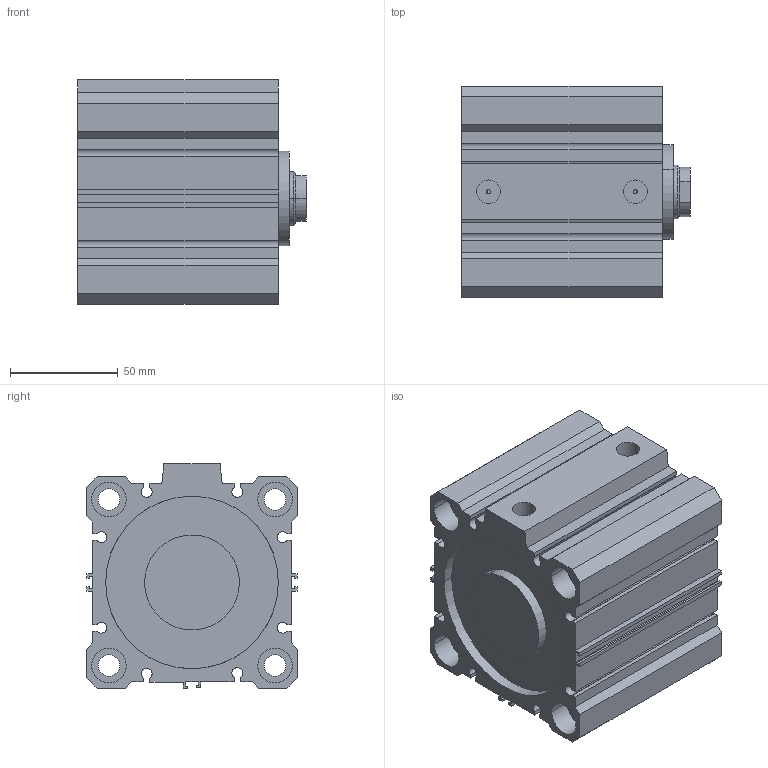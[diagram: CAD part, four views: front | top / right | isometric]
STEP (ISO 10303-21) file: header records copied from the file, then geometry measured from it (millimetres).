
FILE_DESCRIPTION(('CATIA V5 STEP Exchange'),'2;1');
FILE_NAME('D:\PDA\PDA-STP\PDA 80-25\PDA 80-25-40.stp','2016-02-02T11:03:57+00:00',('none'),('none'),'Version 5-6 Release 2012','CATIA V5 STEP AP203','none');
FILE_SCHEMA(('CONFIG_CONTROL_DESIGN'));
Length unit declared in the file: millimetre
Products named in the file (1): PDA 80-25-40-00
Assembly tree (2 placements, depth 2):
  PDA 80-25-40-00
    #58
    #4698
Bounding box: 106 x 98 x 104 mm (x, y, z)
Volume: 529857 mm3; surface area: 135096.6 mm2
Topology: 2 solids, 2 shells, 180 faces, 476 edges, 316 vertices
Faces by surface type: plane 114, cylinder 64, cone 2
Entity records: 5167 total; most frequent: ORIENTED_EDGE 952, CARTESIAN_POINT 930, DIRECTION 672, EDGE_CURVE 476, VECTOR 334, LINE 334, VERTEX_POINT 316, AXIS2_PLACEMENT_3D 236
